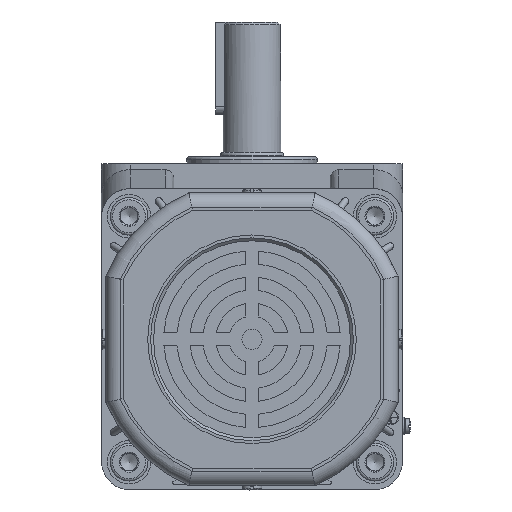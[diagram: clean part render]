
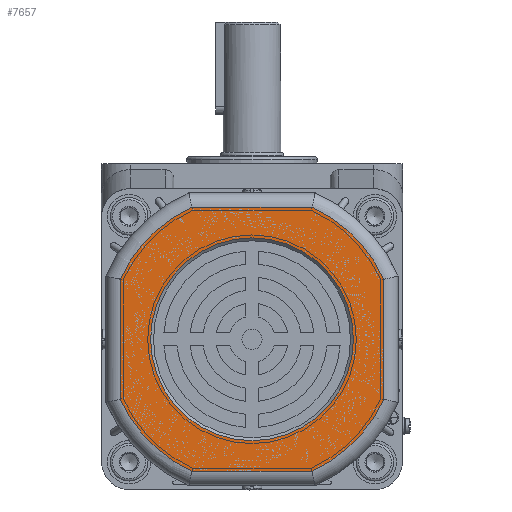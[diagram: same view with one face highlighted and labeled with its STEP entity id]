
A CAD part, left-side view. The second image highlights one B-rep face of the part: STEP entity #7657.
In plain terms, the highlighted planar face has unit normal (-1, 0, 0).
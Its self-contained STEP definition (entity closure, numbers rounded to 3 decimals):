
#2049=FACE_BOUND('',#11659,.T.);
#2050=FACE_BOUND('',#11660,.T.);
#2973=PLANE('',#31742);
#4139=LINE('',#47516,#5790);
#4140=LINE('',#47532,#5791);
#4143=LINE('',#47584,#5794);
#4144=LINE('',#47600,#5795);
#5790=VECTOR('',#37278,1.);
#5791=VECTOR('',#37281,1.);
#5794=VECTOR('',#37298,1.);
#5795=VECTOR('',#37301,1.);
#7657=ADVANCED_FACE('',(#2049,#2050),#2973,.F.);
#11659=EDGE_LOOP('',(#17296));
#11660=EDGE_LOOP('',(#17297,#17298,#17299,#17300,#17301,#17302,#17303,#17304));
#17296=ORIENTED_EDGE('',*,*,#25854,.T.);
#17297=ORIENTED_EDGE('',*,*,#25864,.T.);
#17298=ORIENTED_EDGE('',*,*,#25859,.T.);
#17299=ORIENTED_EDGE('',*,*,#25866,.T.);
#17300=ORIENTED_EDGE('',*,*,#25872,.T.);
#17301=ORIENTED_EDGE('',*,*,#25878,.T.);
#17302=ORIENTED_EDGE('',*,*,#25880,.T.);
#17303=ORIENTED_EDGE('',*,*,#25876,.T.);
#17304=ORIENTED_EDGE('',*,*,#25870,.T.);
#22387=VERTEX_POINT('',#47461);
#22392=VERTEX_POINT('',#47483);
#22393=VERTEX_POINT('',#47485);
#22395=VERTEX_POINT('',#47513);
#22398=VERTEX_POINT('',#47531);
#22399=VERTEX_POINT('',#47547);
#22402=VERTEX_POINT('',#47565);
#22403=VERTEX_POINT('',#47581);
#22406=VERTEX_POINT('',#47599);
#25854=EDGE_CURVE('',#22387,#22387,#29022,.T.);
#25859=EDGE_CURVE('',#22393,#22392,#29026,.T.);
#25864=EDGE_CURVE('',#22395,#22393,#4139,.T.);
#25866=EDGE_CURVE('',#22392,#22398,#4140,.T.);
#25870=EDGE_CURVE('',#22399,#22395,#29029,.T.);
#25872=EDGE_CURVE('',#22398,#22402,#29030,.T.);
#25876=EDGE_CURVE('',#22403,#22399,#4143,.T.);
#25878=EDGE_CURVE('',#22402,#22406,#4144,.T.);
#25880=EDGE_CURVE('',#22406,#22403,#29032,.T.);
#29022=CIRCLE('',#31480,35.);
#29026=CIRCLE('',#31486,50.);
#29029=CIRCLE('',#31492,50.);
#29030=CIRCLE('',#31494,50.);
#29032=CIRCLE('',#31499,50.);
#31480=AXIS2_PLACEMENT_3D('',#47460,#37259,#37260);
#31486=AXIS2_PLACEMENT_3D('',#47484,#37271,#37272);
#31492=AXIS2_PLACEMENT_3D('',#47550,#37287,#37288);
#31494=AXIS2_PLACEMENT_3D('',#47566,#37291,#37292);
#31499=AXIS2_PLACEMENT_3D('',#47603,#37305,#37306);
#31742=AXIS2_PLACEMENT_3D('',#48352,#37983,#37984);
#37259=DIRECTION('',(1.,0.,0.));
#37260=DIRECTION('',(0.,-1.,0.));
#37271=DIRECTION('',(-1.,0.,0.));
#37272=DIRECTION('',(0.,0.,1.));
#37278=DIRECTION('',(0.,-1.,0.));
#37281=DIRECTION('',(0.,0.,1.));
#37287=DIRECTION('',(-1.,0.,0.));
#37288=DIRECTION('',(0.,0.,1.));
#37291=DIRECTION('',(-1.,0.,0.));
#37292=DIRECTION('',(0.,0.,1.));
#37298=DIRECTION('',(0.,0.,-1.));
#37301=DIRECTION('',(0.,1.,0.));
#37305=DIRECTION('',(-1.,0.,0.));
#37306=DIRECTION('',(0.,0.,1.));
#37983=DIRECTION('',(1.,0.,0.));
#37984=DIRECTION('',(0.,0.,1.));
#47460=CARTESIAN_POINT('',(-204.8,-120.671,-58.491));
#47461=CARTESIAN_POINT('',(-204.8,-155.671,-58.491));
#47483=CARTESIAN_POINT('',(-204.8,-166.171,-79.221));
#47484=CARTESIAN_POINT('',(-204.8,-120.671,-58.491));
#47485=CARTESIAN_POINT('',(-204.8,-141.402,-103.991));
#47513=CARTESIAN_POINT('',(-204.8,-99.941,-103.991));
#47516=CARTESIAN_POINT('',(-204.8,-142.46,-103.991));
#47531=CARTESIAN_POINT('',(-204.8,-166.171,-37.76));
#47532=CARTESIAN_POINT('',(-204.8,-166.171,-36.702));
#47547=CARTESIAN_POINT('',(-204.8,-75.171,-79.221));
#47550=CARTESIAN_POINT('',(-204.8,-120.671,-58.491));
#47565=CARTESIAN_POINT('',(-204.8,-141.402,-12.991));
#47566=CARTESIAN_POINT('',(-204.8,-120.671,-58.491));
#47581=CARTESIAN_POINT('',(-204.8,-75.171,-37.76));
#47584=CARTESIAN_POINT('',(-204.8,-75.171,-80.28));
#47599=CARTESIAN_POINT('',(-204.8,-99.941,-12.991));
#47600=CARTESIAN_POINT('',(-204.8,-98.882,-12.991));
#47603=CARTESIAN_POINT('',(-204.8,-120.671,-58.491));
#48352=CARTESIAN_POINT('',(-204.8,-120.671,-58.491));
